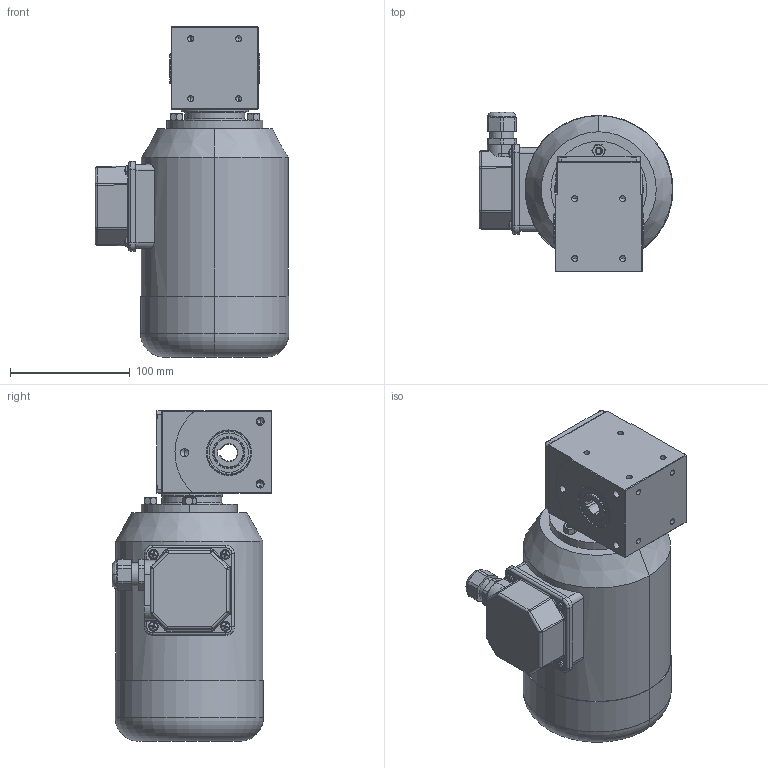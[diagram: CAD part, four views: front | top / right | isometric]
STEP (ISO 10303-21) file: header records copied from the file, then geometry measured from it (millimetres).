
FILE_DESCRIPTION (( 'STEP AP214' ), '1' );
FILE_NAME ('SN14H_180W_Drehstrom-Motor_C.STEP', '2022-08-01T09:05:07', ( '' ), ( '' ), 'SwSTEP 2.0', 'SolidWorks 2021', '' );
FILE_SCHEMA (( 'AUTOMOTIVE_DESIGN' ));
Length unit declared in the file: millimetre
Products named in the file (10): socket set screw flat point_iso_ISO 4026 - M6 x 20-C; 04B-D-003; hexa csunk flathd screw_iso_ISO 14581 M5x12x12-C; 14H-G-001_3D-Export; SN14H_180W_Drehstrom-Motor_C; SN14H_3D-Export; 03BH-W-002_3D-Export; NBR_WDR_25x37x7; 03-M-269 I 180W_1400Upm; hex nut style 1 gradeab_iso_ISO - 4032 - M6 - D - C
Assembly tree (17 placements, depth 3):
  SN14H_180W_Drehstrom-Motor_C
    SN14H_3D-Export
      14H-G-001_3D-Export
      04B-D-003
      03BH-W-002_3D-Export
      NBR_WDR_25x37x7  x2
      hexa csunk flathd screw_iso_ISO 14581 M5x12x12-C  x4
      socket set screw flat point_iso_ISO 4026 - M6 x 20-C  x3
      hex nut style 1 gradeab_iso_ISO - 4032 - M6 - D - C  x3
    03-M-269 I 180W_1400Upm
Bounding box: 162 x 133.5 x 276 mm (x, y, z)
Volume: 2767494 mm3; surface area: 216472.9 mm2
Topology: 18 solids, 18 shells, 919 faces, 2369 edges, 1468 vertices
Faces by surface type: cylinder 301, plane 284, cone 232, bspline 95, torus 7
Entity records: 25480 total; most frequent: CARTESIAN_POINT 8123, ORIENTED_EDGE 3714, DIRECTION 3195, EDGE_CURVE 1857, VERTEX_POINT 1190, AXIS2_PLACEMENT_3D 1190, VECTOR 815, LINE 815
